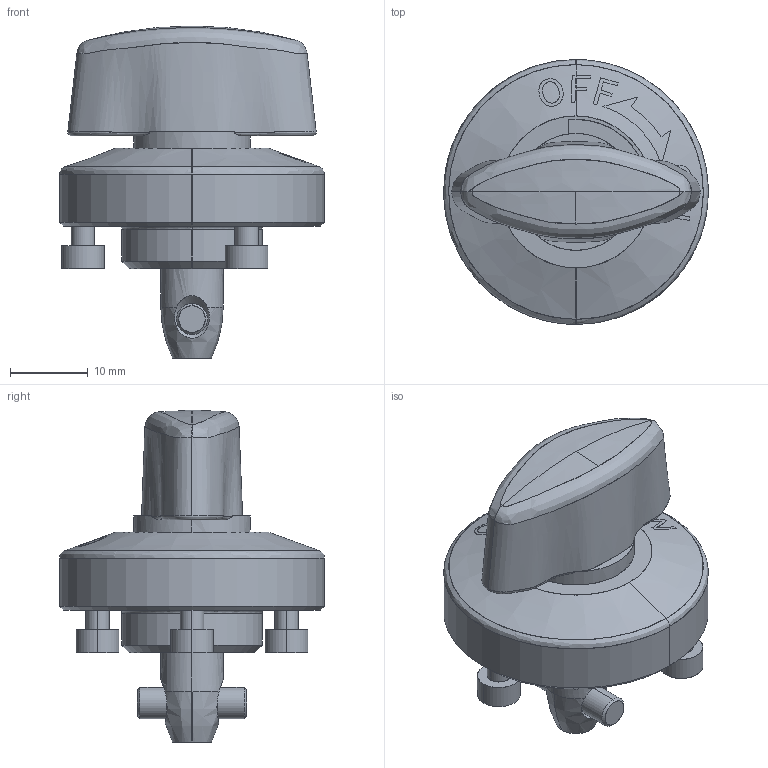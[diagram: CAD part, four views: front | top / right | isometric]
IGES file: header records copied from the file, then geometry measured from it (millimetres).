
Start section: SolidWorks IGES file using analytic representation for surfaces
Global section: file name: X:\11_SW2020-Inv2020\00_全2022-0131新製品まで\編集フォルダー\変換用\Q\QCTH0834-14\qcth0834-14.IGS; native system: SolidWorks 2020; preprocessor: SolidWorks 2020; author: ImaoCorp; date: 220216.160305; units: millimetre
Bounding box: 34 x 34 x 42.6 mm (x, y, z)
Surface area: 6516.3 mm2 (no closed solid volume)
Topology: 0 solids, 0 shells, 247 faces, 3831 edges, 3831 vertices
Faces by surface type: bspline 146, revolution 101
